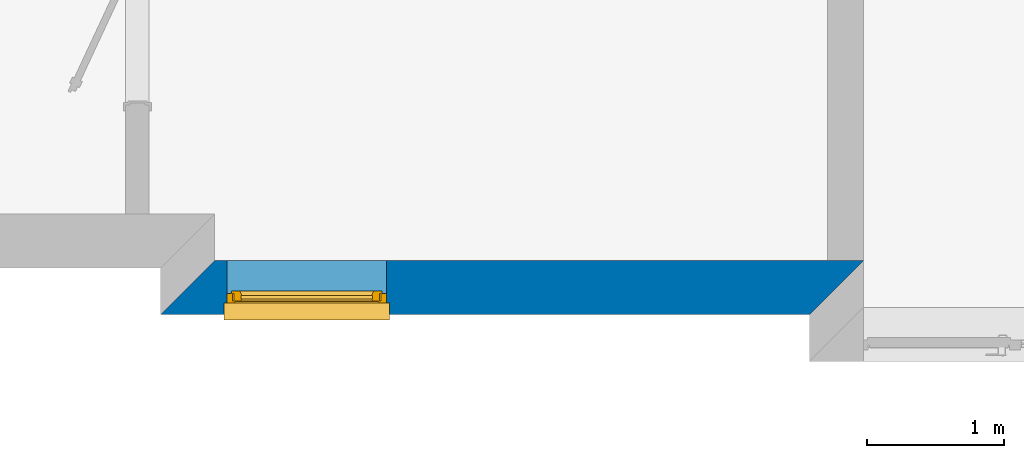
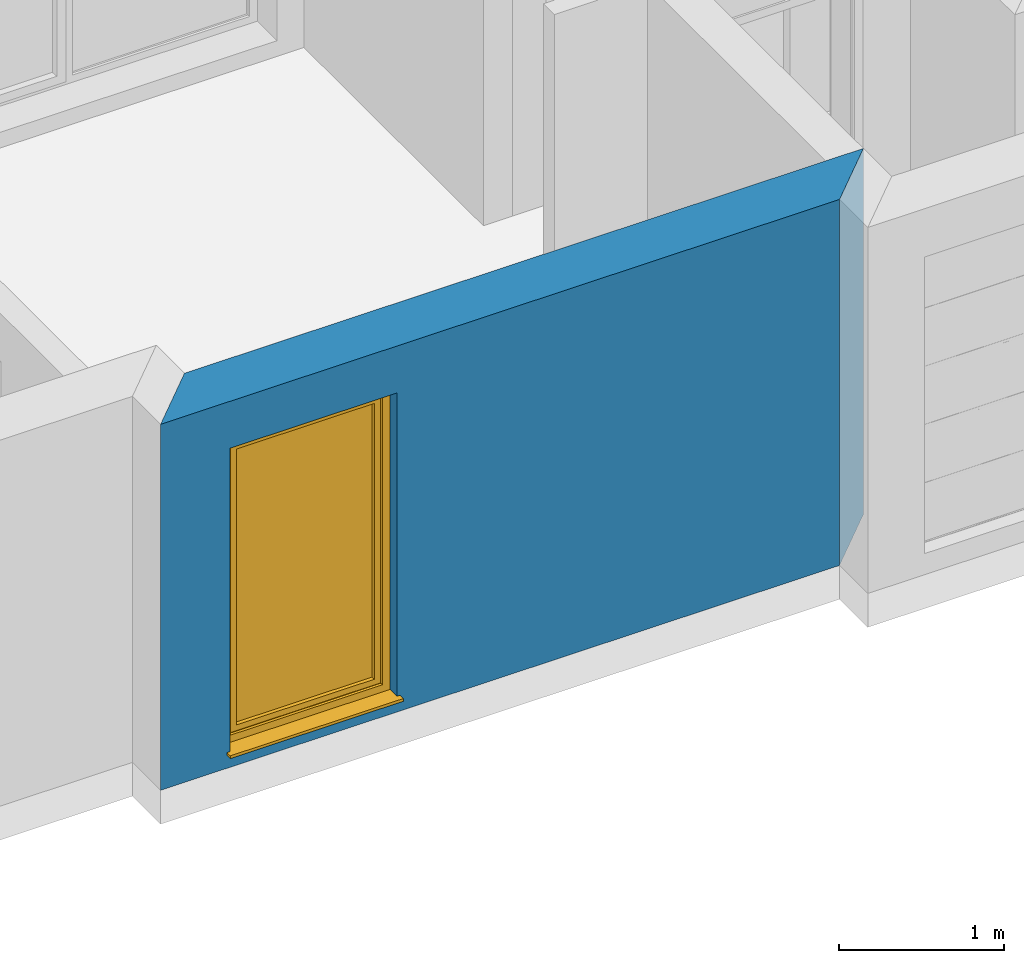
# One storey, part 2 of 13: 1 wall, 1 window, 1 opening.
"""IFC2X3 building model written with IfcOpenShell, lengths in millimetres."""

from ifc_helpers import new_model, si_unit, frame, origin_with_axes, place, context, project, spatial, faceted_brep, material, layer, layer_set, layer_usage, type_object, element, fill, save


model = new_model("IFC2X3")

# Units and contexts
model_context = context("Model", 3, world=origin_with_axes())
ifc_project = project(units=[si_unit("LENGTHUNIT", "METRE", prefix="MILLI")], contexts=[model_context])

# Site, building, storey
site_placement = place(None, origin_with_axes())
site = spatial("IfcSite", under=ifc_project, at=site_placement, Name="Site", CompositionType="ELEMENT")
building_placement = place(site_placement, origin_with_axes())
building = spatial("IfcBuilding", under=site, at=building_placement, Name="?", CompositionType="ELEMENT")
storey_placement = place(building_placement, origin_with_axes())
storey = spatial("IfcBuildingStorey", under=building, at=storey_placement, Name="Erdgeschoß", CompositionType="ELEMENT", Elevation=0.0)

# Wall, opening, window
ifc_material = material(Name="Material_AW")
ifc_layer = layer(ifc_material, 395.0, ventilated=False)
ifc_layer_set = layer_set([ifc_layer], Name="MaterialLayerSet_AW")
ifc_layer_usage = layer_usage(ifc_layer_set, "AXIS2", "NEGATIVE", 197.5)
wall_placement = place(storey_placement, frame((9697.5, -6558.5, 0.0), z_axis=(0.0, 0.0, 1.0), x_axis=(-1.0, 0.0, 0.0)))
wall = element("IfcWall", 1, at=wall_placement, inside=storey, material=ifc_layer_usage, Name="AW-07", context=model_context, shape_type="Brep", body=[
    faceted_brep([(4552.50024192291, -197.5, 0.0), (4552.50024192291, -197.5, 2707.0), (-197.500000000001, -197.5, 2707.0), (-197.500000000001, -197.5, 0.0), (4947.50024192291, 197.5, 0.0), (4947.50024192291, 197.5, 150.0), (4947.50024192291, 197.5, 2707.0), (4552.50024192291, -197.5, 2707.0), (4552.50024192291, -197.5, 0.0), (197.5, 197.5, 0.0), (197.5, 197.5, 150.0), (3292.5, 197.5, 150.0), (3292.5, 197.5, 116.0), (4462.5, 197.5, 116.0), (4462.5, 197.5, 150.0), (4947.50024192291, 197.5, 150.0), (4947.50024192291, 197.5, 0.0), (197.5, 197.5, 150.0), (197.5, 197.5, 2707.0), (4947.50024192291, 197.5, 2707.0), (4947.50024192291, 197.5, 150.0), (4462.5, 197.5, 150.0), (4462.5, 197.5, 116.0), (3292.5, 197.5, 116.0), (3292.5, 197.5, 150.0), (-197.5, -197.5, 0.0), (-197.5, -197.5, 2707.0), (197.5, 197.5, 2707.0), (197.5, 197.5, 150.0), (197.5, 197.5, 0.0), (-197.5, -197.5, 0.0), (197.5, 197.5, 0.0), (4947.50024192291, 197.5, 0.0), (4552.50024192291, -197.5, 0.0), (197.5, 197.5, 2707.0), (-197.5, -197.5, 2707.0), (4552.50024192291, -197.5, 2707.0), (4947.50024192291, 197.5, 2707.0)], [[[0, 1, 2, 3]], [[4, 5, 6, 7, 8]], [[9, 10, 11, 12, 13, 14, 15, 16]], [[17, 18, 19, 20, 21, 22, 23, 24]], [[25, 26, 27, 28, 29]], [[30, 31, 32, 33]], [[34, 35, 36, 37]]]),
])
opening_placement = place(wall_placement, frame((3292.5, 0.0, 116.0), z_axis=(0.0, 0.0, 1.0), x_axis=(1.0, 0.0, 0.0)))
opening = element("IfcOpeningElement", 2, at=opening_placement, cuts=wall, Name="AW-07|FE07", context=model_context, shape_type="Brep", body=[
    faceted_brep([(0.0, 207.5, 0.0), (0.0, 207.5, 2244.0), (1170.0, 207.5, 2244.0), (1170.0, 207.5, 0.0), (0.0, -207.5, 0.0), (0.0, -207.5, 2244.0), (0.0, 207.5, 2244.0), (0.0, 207.5, 0.0), (1170.0, -207.5, 0.0), (0.0, -207.5, 0.0), (0.0, 207.5, 0.0), (1170.0, 207.5, 0.0), (1170.0, -207.5, 2244.0), (1170.0, -207.5, 0.0), (1170.0, 207.5, 0.0), (1170.0, 207.5, 2244.0), (0.0, -207.5, 2244.0), (1170.0, -207.5, 2244.0), (1170.0, 207.5, 2244.0), (0.0, 207.5, 2244.0), (0.0, -207.5, 0.0), (1170.0, -207.5, 0.0), (1170.0, -207.5, 2244.0), (0.0, -207.5, 2244.0)], [[[0, 1, 2, 3]], [[4, 5, 6, 7]], [[8, 9, 10, 11]], [[12, 13, 14, 15]], [[16, 17, 18, 19]], [[20, 21, 22, 23]]]),
])
window_style = type_object("IfcWindowStyle", Name="FE07", ConstructionType="NOTDEFINED", OperationType="SINGLE_PANEL", ParameterTakesPrecedence=True, Sizeable=False)
window_placement = place(opening_placement, frame((1170.0, 77.5, 0.0), z_axis=(0.0, 0.0, 1.0), x_axis=(-1.0, 0.0, 0.0)))
window = element("IfcWindow", 3, at=window_placement, inside=storey, type_object=window_style, Name="FE07", OverallHeight=2244.0, OverallWidth=1170.0, context=model_context, shape_type="Brep", body=[
    faceted_brep([(0.0, -36.0, 0.0), (1170.0, -36.0, 0.0), (1155.0, -36.0, 15.0), (15.0, -36.0, 15.0), (15.0, 36.0, 15.0), (1155.0, 36.0, 15.0), (1170.0, 36.0, 0.0), (0.0, 36.0, 0.0), (0.0, 36.0, 0.0), (1170.0, 36.0, 0.0), (1170.0, -36.0, 0.0), (0.0, -36.0, 0.0), (1170.0, -36.0, 0.0), (1170.0, -36.0, 2244.0), (1155.0, -36.0, 2229.0), (1155.0, -36.0, 15.0), (1155.0, 36.0, 15.0004730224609), (1155.0, 36.0, 2229.00048828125), (1170.0, 36.0, 2244.00048828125), (1170.0, 36.0, 0.0004730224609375), (1170.0, 36.0, 0.0), (1170.0, 36.0, 2244.0), (1170.0, -36.0, 2244.0), (1170.0, -36.0, 0.0), (1170.0, -36.0, 2244.0), (0.0, -36.0, 2244.0), (15.0, -36.0, 2229.0), (1155.0, -36.0, 2229.0), (1155.0, 36.0, 2229.0), (15.0, 36.0, 2229.0), (0.0, 36.0, 2244.0), (1170.0, 36.0, 2244.0), (1170.0, 36.0, 2244.0), (0.0, 36.0, 2244.0), (0.0, -36.0, 2244.0), (1170.0, -36.0, 2244.0), (0.0, -36.0, 2244.0), (0.0, -36.0, 0.0), (15.0, -36.0, 15.0), (15.0, -36.0, 2229.0), (15.0, 36.0, 2229.00024414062), (15.0, 36.0, 15.000244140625), (0.0, 36.0, 0.000244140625), (0.0, 36.0, 2244.00024414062), (0.0, 36.0, 2244.0), (0.0, 36.0, 0.0), (0.0, -36.0, 0.0), (0.0, -36.0, 2244.0), (1155.0, 36.0, 15.0), (15.0, 36.0, 15.0), (43.0, 36.0, 43.0), (1127.0, 36.0, 43.0), (1127.0, 36.0, 43.0), (43.0, 36.0, 43.0), (43.0, -21.0, 43.0), (1127.0, -21.0, 43.0), (1127.0, -21.0, 43.0), (43.0, -21.0, 43.0), (60.0, -21.0, 60.0), (1110.0, -21.0, 60.0), (1110.0, -21.0, 60.0), (60.0, -21.0, 60.0), (60.0, -25.0, 60.0), (1110.0, -25.0, 60.0), (1110.0, -25.0, 60.0), (60.0, -25.0, 60.0), (53.0, -36.0014646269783, 52.9991454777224), (1117.0, -36.0014646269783, 52.9991454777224), (1117.00048828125, -36.0, 53.0), (53.00048828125, -36.0, 53.0), (15.00048828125, -36.0, 15.0), (1155.00048828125, -36.0, 15.0), (1155.0, 36.0, 2229.0), (1155.0, 36.0, 15.0), (1127.0, 36.0, 43.0), (1127.0, 36.0, 2201.0), (1127.0, 36.0, 2201.00024414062), (1127.0, 36.0, 43.000244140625), (1127.0, -21.0, 43.000244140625), (1127.0, -21.0, 2201.00024414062), (1127.0, -21.0, 2201.00024414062), (1127.0, -21.0, 43.000244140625), (1110.0, -21.0, 60.000244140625), (1110.0, -21.0, 2184.00024414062), (1110.0, -21.0, 2184.0), (1110.0, -21.0, 60.0), (1110.0, -25.0, 60.0), (1110.0, -25.0, 2184.0), (1110.0, -25.0, 2184.0), (1110.0, -25.0, 59.9999999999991), (1117.00097675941, -36.0014647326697, 52.9999999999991), (1117.00097675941, -36.0014647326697, 2191.0), (1117.0, -36.0, 2191.0), (1117.0, -36.0, 53.0), (1155.0, -36.0, 15.0), (1155.0, -36.0, 2229.0), (15.0, 36.0, 2229.0), (1155.0, 36.0, 2229.0), (1127.0, 36.0, 2201.0), (43.0, 36.0, 2201.0), (43.00048828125, 36.0, 2201.0), (1127.00048828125, 36.0, 2201.0), (1127.00048828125, -21.0, 2201.0), (43.00048828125, -21.0, 2201.0), (43.00048828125, -21.0, 2201.0), (1127.00048828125, -21.0, 2201.0), (1110.00048828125, -21.0, 2184.0), (60.00048828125, -21.0, 2184.0), (60.0, -21.0, 2184.0), (1110.0, -21.0, 2184.0), (1110.0, -25.0, 2184.0), (60.0, -25.0, 2184.0), (60.0, -25.0, 2184.0), (1110.0, -25.0, 2184.0), (1117.0, -36.0014647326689, 2191.00097675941), (53.0, -36.0014647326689, 2191.00097675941), (53.0, -36.0, 2191.0), (1117.0, -36.0, 2191.0), (1155.0, -36.0, 2229.0), (15.0, -36.0, 2229.0), (15.0, 36.0, 15.0), (15.0, 36.0, 2229.0), (43.0, 36.0, 2201.0), (43.0, 36.0, 43.0), (43.0, 36.0, 43.0001220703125), (43.0, 36.0, 2201.0), (43.0, -21.0, 2201.0), (43.0, -21.0, 43.0001220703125), (43.0, -21.0, 43.0001220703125), (43.0, -21.0, 2201.0), (60.0, -21.0, 2184.0), (60.0, -21.0, 60.0001220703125), (60.0, -21.0, 60.0000305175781), (60.0, -21.0, 2184.0), (60.0, -25.0, 2184.0), (60.0, -25.0, 60.0000305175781), (60.0, -25.0, 60.0000305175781), (60.0, -25.0, 2184.0), (52.9995114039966, -36.0014650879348, 2191.0), (52.9995114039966, -36.0014650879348, 53.0000305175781), (53.0, -36.0, 53.0000915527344), (53.0, -36.0, 2191.0), (15.0, -36.0, 2229.0), (15.0, -36.0, 15.0000915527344), (1137.00048828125, 52.0, 33.0), (33.00048828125, 52.0, 33.0), (96.00048828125, 52.0, 96.0), (1074.00048828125, 52.0, 96.0), (1074.0, 52.0, 96.0), (96.0, 52.0, 96.0), (110.0, 19.9985355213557, 110.000427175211), (1060.0, 19.9985355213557, 110.000427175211), (1060.00048828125, 20.0, 110.0), (110.00048828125, 20.0, 110.0), (103.00048828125, 20.0, 103.0), (1067.00048828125, 20.0, 103.0), (1067.0, 20.0, 103.0), (103.0, 20.0, 103.0), (103.0, -4.0, 103.0), (1067.0, -4.0, 103.0), (1067.0, -4.0, 103.0), (103.0, -4.0, 103.0), (110.0, -4.00048828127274, 110.00000001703), (1060.0, -4.00048828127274, 110.00000001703), (1060.00048828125, -4.0, 110.0), (110.00048828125, -4.0, 110.0), (102.00048828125, -21.0014648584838, 101.999267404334), (1068.00048828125, -21.0014648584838, 101.999267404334), (1068.0, -21.0, 102.0), (102.0, -21.0, 102.0), (51.0, -21.0, 51.0), (1119.0, -21.0, 51.0), (1119.0, -21.0, 51.0), (51.0, -21.0, 51.0), (51.0, 36.0, 51.0), (1119.0, 36.0, 51.0), (1119.0, 36.0, 51.0), (50.9999999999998, 36.0, 51.0), (32.9999999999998, 35.9995117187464, 32.9999999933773), (1137.0, 35.9995117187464, 32.9999999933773), (1137.00048828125, 36.0, 33.0), (33.00048828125, 36.0, 33.0), (33.00048828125, 52.0, 33.0), (1137.00048828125, 52.0, 33.0), (1137.0, 52.0, 2211.0), (1137.0, 52.0, 33.0), (1074.0, 52.0, 96.0), (1074.0, 52.0, 2148.0), (1074.0, 52.0, 2148.00024414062), (1074.0, 52.0, 96.000244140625), (1059.99902366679, 19.9990226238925, 110.000244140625), (1059.99902366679, 19.9990226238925, 2134.00024414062), (1060.0, 20.0, 2134.0), (1060.0, 20.0, 110.0), (1067.0, 20.0, 103.0), (1067.0, 20.0, 2141.0), (1067.0, 20.0, 2141.00024414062), (1067.0, 20.0, 103.000244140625), (1067.0, -4.0, 103.000244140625), (1067.0, -4.0, 2141.00024414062), (1067.0, -4.0, 2141.00024414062), (1067.0, -4.0, 103.000244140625), (1060.0, -4.0, 110.000244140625), (1060.0, -4.0, 2134.00024414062), (1060.0, -4.0, 2134.0), (1060.0, -4.0, 110.0), (1068.00097677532, -21.0014648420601, 102.0), (1068.00097677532, -21.0014648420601, 2142.0), (1068.0, -21.0, 2142.0), (1068.0, -21.0, 102.0), (1119.0, -21.0, 51.0), (1119.0, -21.0, 2193.0), (1119.0, -21.0, 2193.00024414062), (1119.0, -21.0, 51.000244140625), (1119.0, 36.0, 51.000244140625), (1119.0, 36.0, 2193.00024414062), (1119.0, 36.0, 2193.00024414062), (1119.0, 36.0, 51.000244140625), (1137.0, 36.0, 33.000244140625), (1137.0, 36.0, 2211.00024414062), (1137.0, 36.0, 2211.0), (1137.0, 36.0, 33.0), (1137.0, 52.0, 33.0), (1137.0, 52.0, 2211.0), (33.00048828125, 52.0, 2211.0), (1137.00048828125, 52.0, 2211.0), (1074.00048828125, 52.0, 2148.0), (96.00048828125, 52.0, 2148.0), (96.00048828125, 52.0, 2148.0), (1074.00048828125, 52.0, 2148.0), (1060.00048828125, 19.9985358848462, 2133.99926771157), (110.00048828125, 19.9985358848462, 2133.99926771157), (110.00048828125, 20.0, 2134.0), (1060.00048828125, 20.0, 2134.0), (1067.00048828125, 20.0, 2141.0), (103.00048828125, 20.0, 2141.0), (103.00048828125, 20.0, 2141.0), (1067.00048828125, 20.0, 2141.0), (1067.00048828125, -4.0, 2141.0), (103.00048828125, -4.0, 2141.0), (103.000488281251, -4.0, 2141.0), (1067.00048828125, -4.0, 2141.0), (1060.00048828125, -3.99951171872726, 2133.99999998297), (110.000488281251, -3.99951171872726, 2133.99999998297), (110.000488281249, -4.0, 2134.0), (1060.00048828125, -4.0, 2134.0), (1068.00048828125, -21.0014648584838, 2142.00073259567), (102.000488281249, -21.0014648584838, 2142.00073259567), (102.0, -21.0, 2142.0), (1068.0, -21.0, 2142.0), (1119.0, -20.9995117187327, 2193.00000000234), (51.0, -20.9995117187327, 2193.00000000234), (51.00048828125, -21.0, 2193.0), (1119.00048828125, -21.0, 2193.0), (1119.00048828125, 36.0, 2193.0), (51.00048828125, 36.0, 2193.0), (51.00048828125, 36.0, 2193.0), (1119.00048828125, 36.0, 2193.0), (1137.00048828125, 36.0, 2211.0), (33.00048828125, 36.0, 2211.0), (33.00048828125, 36.0, 2211.0), (1137.00048828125, 36.0, 2211.0), (1137.00048828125, 52.0, 2211.0), (33.00048828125, 52.0, 2211.0), (33.0, 52.0, 33.0000305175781), (33.0, 52.0, 2211.0), (96.0, 52.0, 2148.0), (96.0, 52.0, 96.0000305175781), (96.0, 52.0, 96.0001983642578), (96.0, 52.0, 2148.00024414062), (110.00048798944, 19.998536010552, 2134.00024414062), (110.00048798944, 19.998536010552, 110.000198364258), (110.0, 20.0, 110.000091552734), (110.0, 20.0, 2134.0), (103.0, 20.0, 2141.0), (103.0, 20.0, 103.000091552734), (103.0, 20.0, 103.000152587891), (103.0, 20.0, 2141.00024414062), (103.0, -4.0, 2141.00024414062), (103.0, -4.0, 103.000152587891), (103.0, -4.0, 103.000152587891), (103.0, -4.0, 2141.00024414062), (110.0, -4.0, 2134.00024414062), (110.0, -4.0, 110.000152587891), (110.0, -4.0, 110.000091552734), (110.0, -4.0, 2134.0), (101.999023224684, -21.0014648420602, 2142.0), (101.999023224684, -21.0014648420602, 102.000091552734), (102.0, -21.0, 102.000244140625), (102.0, -21.0, 2142.00024414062), (51.0, -21.0, 2193.00024414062), (51.0, -21.0, 51.000244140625), (51.0, -21.0, 51.0001678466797), (51.0, -21.0, 2193.00024414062), (51.0, 36.0, 2193.00024414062), (51.0, 36.0, 51.0001678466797), (51.0, 36.0, 51.0001678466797), (51.0, 36.0, 2193.00024414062), (33.0, 36.0, 2211.00024414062), (33.0, 36.0, 33.0001678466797), (33.0, 36.0, 33.0000305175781), (33.0, 36.0, 2211.0), (33.0, 52.0, 2211.0), (33.0, 52.0, 33.0000305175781), (110.0, 20.0, 110.0), (110.0, 20.0, 2134.0), (1060.0, 20.0, 2134.0), (1060.0, 20.0, 110.0), (110.0, -4.0, 110.0), (1060.0, -4.0, 110.0), (1060.0, -4.0, 2134.0), (110.0, -4.0, 2134.0), (-20.0, -36.0, 0.5), (-20.0, -160.0, 0.5), (1190.0, -160.0, 0.5), (1190.0, -36.0, 0.5), (-20.0, -36.0, -19.5), (-20.0, -36.0, 0.5), (1190.0, -36.0, 0.5), (1190.0, -36.0, -19.5), (-20.0, -160.0, -19.5), (-20.0, -36.0, -19.5), (1190.0, -36.0, -19.5), (1190.0, -160.0, -19.5), (-20.0, -160.0, 0.5), (-20.0, -160.0, -19.5), (1190.0, -160.0, -19.5), (1190.0, -160.0, 0.5), (-20.0, -160.0, -19.5), (-20.0, -160.0, 0.5), (-20.0, -36.0, 0.5), (-20.0, -36.0, -19.5), (1190.0, -160.0, 0.5), (1190.0, -160.0, -19.5), (1190.0, -36.0, -19.5), (1190.0, -36.0, 0.5)], [[[0, 1, 2, 3]], [[4, 5, 6, 7]], [[8, 9, 10, 11]], [[12, 13, 14, 15]], [[16, 17, 18, 19]], [[20, 21, 22, 23]], [[24, 25, 26, 27]], [[28, 29, 30, 31]], [[32, 33, 34, 35]], [[36, 37, 38, 39]], [[40, 41, 42, 43]], [[44, 45, 46, 47]], [[48, 49, 50, 51]], [[52, 53, 54, 55]], [[56, 57, 58, 59]], [[60, 61, 62, 63]], [[64, 65, 66, 67]], [[68, 69, 70, 71]], [[72, 73, 74, 75]], [[76, 77, 78, 79]], [[80, 81, 82, 83]], [[84, 85, 86, 87]], [[88, 89, 90, 91]], [[92, 93, 94, 95]], [[96, 97, 98, 99]], [[100, 101, 102, 103]], [[104, 105, 106, 107]], [[108, 109, 110, 111]], [[112, 113, 114, 115]], [[116, 117, 118, 119]], [[120, 121, 122, 123]], [[124, 125, 126, 127]], [[128, 129, 130, 131]], [[132, 133, 134, 135]], [[136, 137, 138, 139]], [[140, 141, 142, 143]], [[144, 145, 146, 147]], [[148, 149, 150, 151]], [[152, 153, 154, 155]], [[156, 157, 158, 159]], [[160, 161, 162, 163]], [[164, 165, 166, 167]], [[168, 169, 170, 171]], [[172, 173, 174, 175]], [[176, 177, 178, 179]], [[180, 181, 182, 183]], [[184, 185, 186, 187]], [[188, 189, 190, 191]], [[192, 193, 194, 195]], [[196, 197, 198, 199]], [[200, 201, 202, 203]], [[204, 205, 206, 207]], [[208, 209, 210, 211]], [[212, 213, 214, 215]], [[216, 217, 218, 219]], [[220, 221, 222, 223]], [[224, 225, 226, 227]], [[228, 229, 230, 231]], [[232, 233, 234, 235]], [[236, 237, 238, 239]], [[240, 241, 242, 243]], [[244, 245, 246, 247]], [[248, 249, 250, 251]], [[252, 253, 254, 255]], [[256, 257, 258, 259]], [[260, 261, 262, 263]], [[264, 265, 266, 267]], [[268, 269, 270, 271]], [[272, 273, 274, 275]], [[276, 277, 278, 279]], [[280, 281, 282, 283]], [[284, 285, 286, 287]], [[288, 289, 290, 291]], [[292, 293, 294, 295]], [[296, 297, 298, 299]], [[300, 301, 302, 303]], [[304, 305, 306, 307]], [[308, 309, 310, 311]], [[312, 313, 314, 315]], [[316, 317, 318, 319]], [[320, 321, 322, 323]], [[324, 325, 326, 327]], [[328, 329, 330, 331]], [[332, 333, 334, 335]]]),
])
fill(opening, window)

save(model, "model.ifc")
